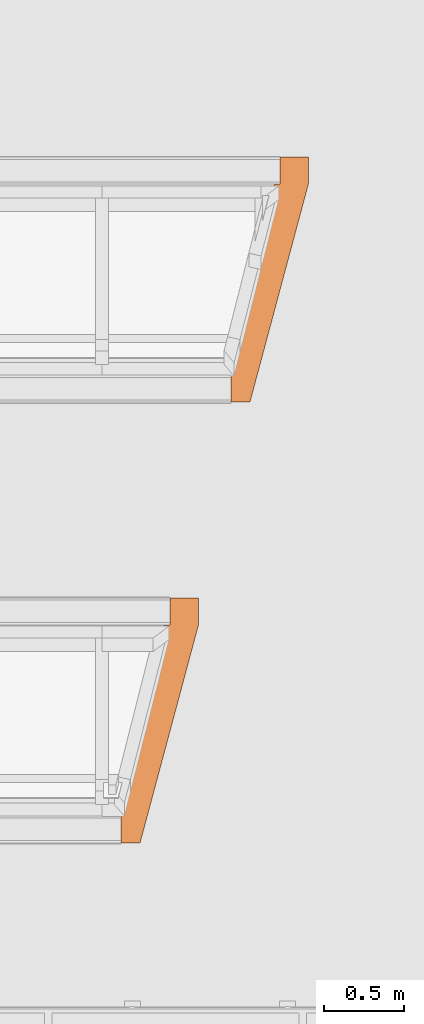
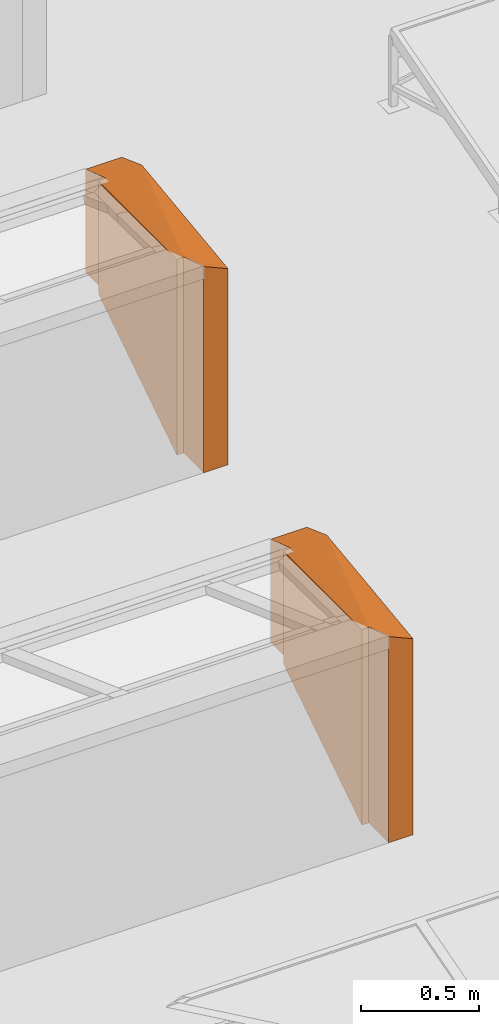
# One storey, part 18 of 20: 2 proxies.
"""IFC2X3 building model written with IfcOpenShell, lengths in millimetres."""

from ifc_helpers import new_model, entity, si_unit, converted_unit, derived_unit, money_unit, direction, frame, origin_with_axes, place, context, subcontext, project, spatial, faceted_brep, source, transform, mapped, material, type_object, type_shapes, element, save


model = new_model("IFC2X3")

# Units and contexts
model_context = context("Model", 3, precision=0.01, world=origin_with_axes(), true_north=direction((0.0, 1.0)))
plan_context = context("Plan", 3, precision=0.01, world=origin_with_axes(), true_north=direction((0.0, 1.0)))
body_context = subcontext(model_context, "Body", "Model", "MODEL_VIEW")
ifc_project = project(units=[si_unit("LENGTHUNIT", "METRE", prefix="MILLI"), si_unit("AREAUNIT", "SQUARE_METRE"), si_unit("VOLUMEUNIT", "CUBIC_METRE"), converted_unit("PLANEANGLEUNIT", "DEGREE", entity("IfcPlaneAngleMeasure", 0.0174532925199), si_unit("PLANEANGLEUNIT", "RADIAN"), dimensions=[0, 0, 0, 0, 0, 0, 0]), si_unit("SOLIDANGLEUNIT", "STERADIAN"), money_unit("EUR"), converted_unit("TIMEUNIT", "Year", entity("IfcTimeMeasure", 31556926.0), si_unit("TIMEUNIT", "SECOND"), dimensions=[0, 0, 1, 0, 0, 0, 0]), si_unit("MASSUNIT", "GRAM", prefix="KILO"), si_unit("THERMODYNAMICTEMPERATUREUNIT", "DEGREE_CELSIUS"), si_unit("LUMINOUSINTENSITYUNIT", "LUMEN"), si_unit("ENERGYUNIT", "JOULE", prefix="MEGA"), derived_unit("THERMALCONDUCTANCEUNIT", [(si_unit("POWERUNIT", "WATT"), 1), (si_unit("LENGTHUNIT", "METRE"), -1), (si_unit("THERMODYNAMICTEMPERATUREUNIT", "KELVIN"), -1)]), derived_unit("SPECIFICHEATCAPACITYUNIT", [(si_unit("ENERGYUNIT", "JOULE"), 1), (si_unit("MASSUNIT", "GRAM", prefix="KILO"), -1), (si_unit("THERMODYNAMICTEMPERATUREUNIT", "KELVIN"), -1)]), derived_unit("MASSDENSITYUNIT", [(si_unit("MASSUNIT", "GRAM", prefix="KILO"), 1), (si_unit("VOLUMEUNIT", "CUBIC_METRE"), -1)])], contexts=[model_context, plan_context])

# Site, building, storey
site_placement = place(None, origin_with_axes())
site = spatial("IfcSite", under=ifc_project, at=site_placement, Name="Site", CompositionType="ELEMENT")
building_placement = place(site_placement, origin_with_axes())
building = spatial("IfcBuilding", under=site, at=building_placement, Name="Naam gebouw", CompositionType="ELEMENT")
storey_placement = place(building_placement, frame((0.0, 0.0, 7920.0), z_axis=(0.0, 0.0, 1.0), x_axis=(1.0, 0.0, 0.0)))
storey = spatial("IfcBuildingStorey", under=building, at=storey_placement, Name="2e verdieping", CompositionType="ELEMENT", Elevation=7920.0)

# Proxies
ifc_material = material(Name="ALG - BINNENAFWERKING")
building_element_proxy_type = type_object("IfcBuildingElementProxyType", Name="ALG - BINNENAFWERKING", PredefinedType="USERDEFINED")
shared_shape = source(origin_with_axes(), body_context, "Body", "Brep", [
    faceted_brep([(-308.667905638, -1539.94574511, 0.0), (-308.667905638, -1539.94574511, 1070.97099805), (-308.667905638, -1369.95425439, 1017.68821331), (-308.667905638, -1369.95425439, 0.0), (-188.667905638, -1539.94574511, 0.0), (-188.667905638, -1539.94574511, 1017.68821331), (-342.612750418, -1369.95425439, 0.0), (-342.612750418, -1369.95425439, 1015.28052611), (-33.9566156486, -170.000015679, 0.0), (0.0, -170.000015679, 0.0), (0.0, 0.0, 0.0), (178.407946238, 0.0, 0.0), (178.407946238, -170.000015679, 0.0), (178.407946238, -170.000015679, 596.957869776), (-33.9566156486, -170.000015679, 587.840020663), (0.0, -169.459069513, 592.081900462), (0.0, 0.0, 534.743913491), (178.407946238, 0.0, 534.743913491)], [[[0, 1, 2, 3]], [[1, 0, 4, 5]], [[2, 1, 5]], [[6, 3, 2, 7]], [[4, 0, 3, 6, 8, 9, 10, 11, 12]], [[5, 4, 12, 13]], [[2, 5, 13]], [[7, 2, 14]], [[6, 7, 14, 8]], [[8, 14, 9]], [[9, 15, 16, 10]], [[10, 16, 17, 11]], [[13, 12, 11, 17]], [[15, 2, 13]], [[14, 2, 15]], [[15, 9, 14]], [[16, 15, 13]], [[13, 17, 16]]]),
])
type_shapes(building_element_proxy_type, [shared_shape])
for number, where, z_axis, x_axis, name in (
    (1, (21657.5586709, 22374.9869372, 245.0), (0.0, 0.0, 1.0), (1.0, 0.0, 0.0), "_Massa_OMG Morph"),
    (2, (20967.0026049, 19605.0000157, 245.0), (0.0, 0.0, 1.0), (1.0, 0.0, 0.0), "_Massa_OMG Morph"),
):
    element("IfcBuildingElementProxy", number, at=place(storey_placement, frame(where, z_axis=z_axis, x_axis=x_axis)), inside=storey, type_object=building_element_proxy_type, material=ifc_material, Name=name, ObjectType="Massing", context=body_context, shape_type="MappedRepresentation", body=[
        mapped(shared_shape, transform((0.0, 0.0, 0.0))),
    ])

save(model, "model.ifc")
